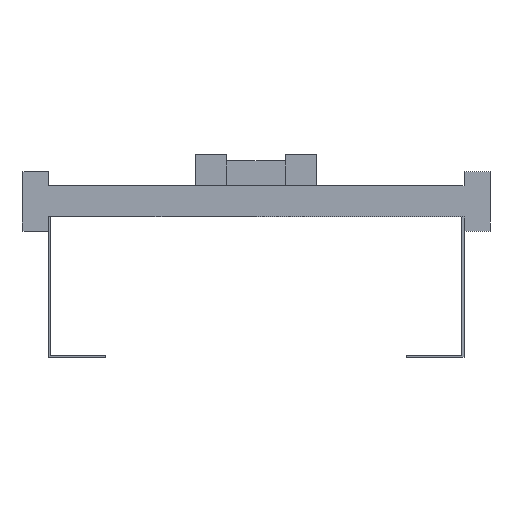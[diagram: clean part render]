
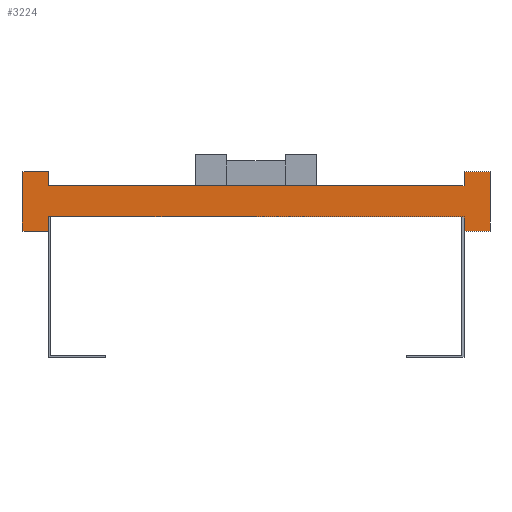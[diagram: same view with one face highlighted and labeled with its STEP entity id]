
A CAD part, front view. The second image highlights one B-rep face of the part: STEP entity #3224.
In plain terms, the highlighted planar face has unit normal (0, -1, 0).
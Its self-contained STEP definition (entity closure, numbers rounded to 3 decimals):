
#1=DIRECTION('',(0.,0.,1.));
#2=VECTOR('',#1,13.5);
#3=CARTESIAN_POINT('',(200.,0.,-28.5));
#4=LINE('',#3,#2);
#5=DIRECTION('',(0.,0.,-1.));
#6=VECTOR('',#5,13.5);
#7=CARTESIAN_POINT('',(-200.,0.,-15.));
#8=LINE('',#7,#6);
#9=DIRECTION('',(-1.,0.,0.));
#10=VECTOR('',#9,25.);
#11=CARTESIAN_POINT('',(-200.,0.,-28.5));
#12=LINE('',#11,#10);
#13=DIRECTION('',(0.,0.,1.));
#14=VECTOR('',#13,57.);
#15=CARTESIAN_POINT('',(-225.,0.,-28.5));
#16=LINE('',#15,#14);
#17=DIRECTION('',(1.,0.,0.));
#18=VECTOR('',#17,25.);
#19=CARTESIAN_POINT('',(-225.,0.,28.5));
#20=LINE('',#19,#18);
#21=DIRECTION('',(0.,0.,-1.));
#22=VECTOR('',#21,13.5);
#23=CARTESIAN_POINT('',(-200.,0.,28.5));
#24=LINE('',#23,#22);
#25=DIRECTION('',(0.,0.,1.));
#26=VECTOR('',#25,13.5);
#27=CARTESIAN_POINT('',(200.,0.,15.));
#28=LINE('',#27,#26);
#29=DIRECTION('',(1.,0.,0.));
#30=VECTOR('',#29,25.);
#31=CARTESIAN_POINT('',(200.,0.,28.5));
#32=LINE('',#31,#30);
#33=DIRECTION('',(0.,0.,-1.));
#34=VECTOR('',#33,57.);
#35=CARTESIAN_POINT('',(225.,0.,28.5));
#36=LINE('',#35,#34);
#37=DIRECTION('',(-1.,0.,0.));
#38=VECTOR('',#37,25.);
#39=CARTESIAN_POINT('',(225.,0.,-28.5));
#40=LINE('',#39,#38);
#2425=DIRECTION('',(1.,0.,0.));
#2426=VECTOR('',#2425,400.);
#2427=CARTESIAN_POINT('',(-200.,0.,-15.));
#2428=LINE('',#2427,#2426);
#2437=DIRECTION('',(1.,0.,0.));
#2438=VECTOR('',#2437,400.);
#2439=CARTESIAN_POINT('',(-200.,0.,15.));
#2440=LINE('',#2439,#2438);
#2441=CARTESIAN_POINT('',(-225.,0.,28.5));
#2442=CARTESIAN_POINT('',(-200.,0.,28.5));
#2443=VERTEX_POINT('',#2441);
#2444=VERTEX_POINT('',#2442);
#2445=CARTESIAN_POINT('',(-200.,0.,-28.5));
#2446=CARTESIAN_POINT('',(-225.,0.,-28.5));
#2447=VERTEX_POINT('',#2445);
#2448=VERTEX_POINT('',#2446);
#2449=CARTESIAN_POINT('',(225.,0.,28.5));
#2450=CARTESIAN_POINT('',(225.,0.,-28.5));
#2451=VERTEX_POINT('',#2449);
#2452=VERTEX_POINT('',#2450);
#2453=CARTESIAN_POINT('',(200.,0.,-28.5));
#2454=VERTEX_POINT('',#2453);
#2455=CARTESIAN_POINT('',(200.,0.,28.5));
#2456=VERTEX_POINT('',#2455);
#2473=CARTESIAN_POINT('',(-200.,0.,-15.));
#2475=VERTEX_POINT('',#2473);
#2477=CARTESIAN_POINT('',(-200.,0.,15.));
#2479=VERTEX_POINT('',#2477);
#2481=CARTESIAN_POINT('',(200.,0.,-15.));
#2483=VERTEX_POINT('',#2481);
#2485=CARTESIAN_POINT('',(200.,0.,15.));
#2487=VERTEX_POINT('',#2485);
#3193=CARTESIAN_POINT('',(0.,0.,0.));
#3194=DIRECTION('',(0.,1.,0.));
#3195=DIRECTION('',(1.,0.,0.));
#3196=AXIS2_PLACEMENT_3D('',#3193,#3194,#3195);
#3197=PLANE('',#3196);
#3199=ORIENTED_EDGE('',*,*,#3198,.T.);
#3201=ORIENTED_EDGE('',*,*,#3200,.F.);
#3203=ORIENTED_EDGE('',*,*,#3202,.T.);
#3205=ORIENTED_EDGE('',*,*,#3204,.T.);
#3207=ORIENTED_EDGE('',*,*,#3206,.T.);
#3209=ORIENTED_EDGE('',*,*,#3208,.T.);
#3211=ORIENTED_EDGE('',*,*,#3210,.T.);
#3213=ORIENTED_EDGE('',*,*,#3212,.T.);
#3215=ORIENTED_EDGE('',*,*,#3214,.T.);
#3217=ORIENTED_EDGE('',*,*,#3216,.T.);
#3219=ORIENTED_EDGE('',*,*,#3218,.T.);
#3221=ORIENTED_EDGE('',*,*,#3220,.T.);
#3222=EDGE_LOOP('',(#3199,#3201,#3203,#3205,#3207,#3209,#3211,#3213,#3215,#3217,
#3219,#3221));
#3223=FACE_OUTER_BOUND('',#3222,.F.);
#3224=ADVANCED_FACE('',(#3223),#3197,.F.);
#3198=EDGE_CURVE('',#2454,#2483,#4,.T.);
#3200=EDGE_CURVE('',#2475,#2483,#2428,.T.);
#3202=EDGE_CURVE('',#2475,#2447,#8,.T.);
#3204=EDGE_CURVE('',#2447,#2448,#12,.T.);
#3206=EDGE_CURVE('',#2448,#2443,#16,.T.);
#3208=EDGE_CURVE('',#2443,#2444,#20,.T.);
#3210=EDGE_CURVE('',#2444,#2479,#24,.T.);
#3212=EDGE_CURVE('',#2479,#2487,#2440,.T.);
#3214=EDGE_CURVE('',#2487,#2456,#28,.T.);
#3216=EDGE_CURVE('',#2456,#2451,#32,.T.);
#3218=EDGE_CURVE('',#2451,#2452,#36,.T.);
#3220=EDGE_CURVE('',#2452,#2454,#40,.T.);
